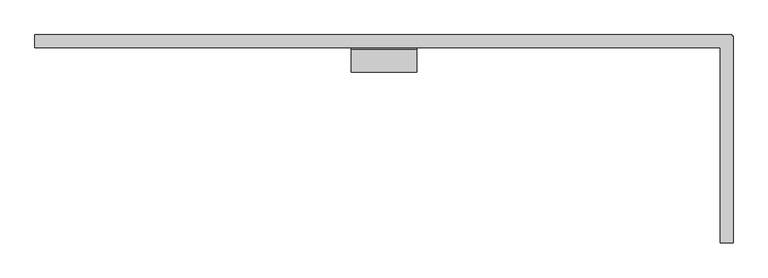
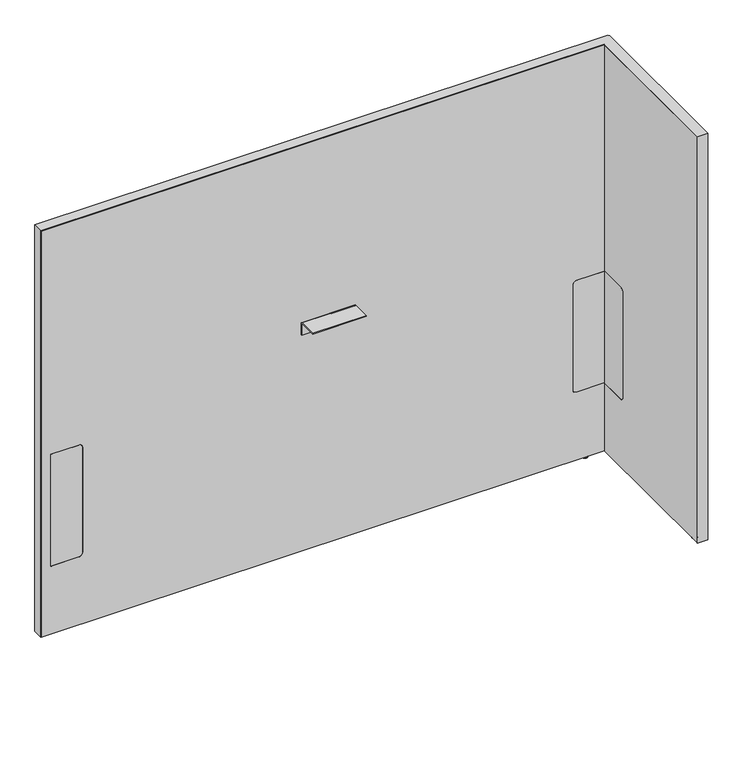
"""IFC4 building model written with IfcOpenShell, lengths in millimetres: furniture geometry, Steelcase - Answer Solution - Boundary Screen - L Return - Single Sided : 48H x 63W."""

from ifc_helpers import new_model, si_unit, point, frame, frame_2d, origin, place, context, project, spatial, polyline, circle_curve, ellipse_curve, trimmed, segment, composite_curve, outline, extrude, faceted_brep, source, transform, mapped, element, save
from ifc_brep_helpers import plane_surface, cylinder_surface, revolved_surface, advanced_brep


def furniture_eaf8db1d(model_context):
    return source(origin(), model_context, "Body", "SolidModel", [
        extrude(outline(composite_curve([segment(polyline([(-109.3501471, 549.6162029), (-29.0550397, 549.6162029), (-29.0550397, 213.7762137), (-109.3501471, 213.7762137)]), True, "CONTINUOUS"), segment(trimmed(circle_curve(frame_2d((-109.3501471, 223.9362137)), 10.16), [point((-109.3501471, 213.7762137))], [point((-119.5101471, 223.9362137))], False, "CARTESIAN"), True, "CONTINUOUS"), segment(polyline([(-119.5101471, 223.9362137), (-119.5101471, 539.4562029)]), True, "CONTINUOUS"), segment(trimmed(circle_curve(frame_2d((-109.3501471, 539.4562029)), 10.16), [point((-119.5101471, 539.4562029))], [point((-109.3501471, 549.6162029))], False, "CARTESIAN"), True, "CONTINUOUS")], self_intersect=False)), frame((1830.0191891, 0.0, 0.0), z_axis=(1.0, 0.0, 0.0), x_axis=(0.0, 1.0, 0.0)), (0.0, 0.0, 1.0), 0.6401544),
        advanced_brep(
        [(1844.8672074, -448.0136072, 0.0), (1851.8216144, -448.0136072, 0.0), (1837.9128003, -448.0136072, 0.0), (1853.2762685, -448.0136072, 1.2700001), (1836.4581463, -448.0136072, 1.2700001), (1853.2762685, -448.0136072, 2.9673238), (1836.4581463, -448.0136072, 2.9673238), (1854.2427877, -448.0136072, 2.9673238), (1835.491627, -448.0136072, 2.9673238), (1854.2427877, -448.0136072, 9.9059849), (1835.491627, -448.0136072, 9.9059849), (1844.8672074, -448.0136072, 9.9059849)],
        [
            (0, 1),
            (1, 2, circle_curve(frame((1844.8672074, -448.0136072, 0.0), z_axis=(0.0, 0.0, -1.0), x_axis=(1.0, 0.0, 0.0)), 6.9544071)),
            (2, 0),
            (2, 1, circle_curve(frame((1844.8672074, -448.0136072, 0.0), z_axis=(0.0, 0.0, -1.0), x_axis=(1.0, 0.0, 0.0)), 6.9544071)),
            (1, 3, circle_curve(frame((1851.9945484, -448.0136072, 1.2700001), z_axis=(0.0, -1.0, 0.0), x_axis=(0.0, 0.0, 1.0)), 1.2817201)),
            (3, 4, circle_curve(frame((1844.8672074, -448.0136072, 1.2700001), z_axis=(0.0, 0.0, -1.0), x_axis=(1.0, 0.0, 0.0)), 8.4090611)),
            (4, 2, circle_curve(frame((1837.7398663, -448.0136072, 1.2700001), z_axis=(0.0, -1.0, 0.0), x_axis=(0.0, 0.0, 1.0)), 1.2817201)),
            (4, 3, circle_curve(frame((1844.8672074, -448.0136072, 1.2700001), z_axis=(0.0, 0.0, -1.0), x_axis=(1.0, 0.0, 0.0)), 8.4090611)),
            (3, 5),
            (5, 6, circle_curve(frame((1844.8672074, -448.0136072, 2.9673238), z_axis=(0.0, 0.0, -1.0), x_axis=(1.0, 0.0, 0.0)), 8.4090611)),
            (6, 4),
            (6, 5, circle_curve(frame((1844.8672074, -448.0136072, 2.9673238), z_axis=(0.0, 0.0, -1.0), x_axis=(1.0, 0.0, 0.0)), 8.4090611)),
            (5, 7),
            (7, 8, circle_curve(frame((1844.8672074, -448.0136072, 2.9673238), z_axis=(0.0, 0.0, -1.0), x_axis=(1.0, 0.0, 0.0)), 9.3755804)),
            (8, 6),
            (8, 7, circle_curve(frame((1844.8672074, -448.0136072, 2.9673238), z_axis=(0.0, 0.0, -1.0), x_axis=(1.0, 0.0, 0.0)), 9.3755804)),
            (7, 9),
            (9, 10, circle_curve(frame((1844.8672074, -448.0136072, 9.9059849), z_axis=(0.0, 0.0, -1.0), x_axis=(1.0, 0.0, 0.0)), 9.3755804)),
            (10, 8),
            (10, 9, circle_curve(frame((1844.8672074, -448.0136072, 9.9059849), z_axis=(0.0, 0.0, -1.0), x_axis=(1.0, 0.0, 0.0)), 9.3755804)),
            (9, 11),
            (11, 10),
        ],
        [
            plane_surface(frame((1844.8672074, -448.0136072, 0.0), z_axis=(0.0, 0.0, -1.0), x_axis=(1.0, 0.0, 0.0))),
            revolved_surface(trimmed(ellipse_curve(frame((1851.9945484, -448.0136072, 1.2700001), z_axis=(0.0, 1.0, 0.0), x_axis=(0.0, 0.0, 1.0)), 1.2817201, 1.2817201), [point((1853.2762685, -448.0136072, 1.2700001))], [point((1851.8216144, -448.0136072, 0.0))], True, "CARTESIAN"), (1844.8672074, -448.0136072, 9.9059849), (0.0, 0.0, -1.0)),
            cylinder_surface(frame((1844.8672074, -448.0136072, 9.9059849), z_axis=(0.0, 0.0, -1.0), x_axis=(1.0, 0.0, 0.0)), 8.4090611),
            plane_surface(frame((1844.8672074, -448.0136072, 2.9673238), z_axis=(0.0, 0.0, -1.0), x_axis=(1.0, 0.0, 0.0))),
            cylinder_surface(frame((1844.8672074, -448.0136072, 9.9059849), z_axis=(0.0, 0.0, -1.0), x_axis=(1.0, 0.0, 0.0)), 9.3755804),
            plane_surface(frame((1844.8672074, -448.0136072, 9.9059849), z_axis=(0.0, 0.0, 1.0), x_axis=(1.0, 0.0, 0.0))),
        ],
        [
            (0, [[1, 2, 3]]),
            (0, [[-3, 4, -1]]),
            (1, [[-2, 5, 6, 7]]),
            (1, [[-4, -7, 8, -5]]),
            (2, [[-6, 9, 10, 11]]),
            (2, [[-8, -11, 12, -9]]),
            (3, [[-10, 13, 14, 15]]),
            (3, [[-12, -15, 16, -13]]),
            (4, [[-14, 17, 18, 19]]),
            (4, [[-16, -19, 20, -17]]),
            (5, [[-18, 21, 22]]),
            (5, [[-20, -22, -21]]),
        ],
    ),
        faceted_brep([(1856.4531179, 0.0, 1230.122), (1856.4531179, 0.0, 9.9059849), (1855.4621491, 0.0, 9.9059849), (1855.4621491, 0.0, 1229.142118), (230.8097779, 0.0, 1229.142118), (230.8097779, 0.0, 9.9059849), (229.8191891, 0.0, 9.9059849), (229.8191891, 0.0, 1230.122), (229.8191891, -29.6898332, 1230.122), (229.8191891, -29.6898332, 9.9059849), (230.8097779, -29.6898332, 9.9059849), (230.8097779, -29.6898332, 1229.142118), (1830.0191891, -29.6898332, 1229.142118), (1830.0191891, -29.6898332, 1230.122), (1855.4621491, -29.6898332, 1229.142118), (1855.4621491, -29.6898332, 9.9059849), (1856.4531179, -29.6898332, 9.9059849), (1856.4531179, -29.6898332, 1229.142118), (1856.4531179, -3.2625916, 1230.122), (1856.4531179, -3.2625916, 9.9059849), (1856.4531179, -4.252647, 9.9059849), (1856.4531179, -4.252647, 1229.142118), (1859.7152256, -3.2625916, 9.9059849), (1859.7152256, -4.252647, 9.9059849), (1855.4621491, -4.252647, 9.9059849), (1830.0191891, -4.252647, 9.9059849), (1830.0191891, -3.2625916, 9.9059849), (1855.4621491, -3.2625916, 9.9059849), (1830.0191891, -486.8898332, 1230.122), (1859.7152256, -486.8898332, 1230.122), (1859.7152256, -3.2625916, 1230.122), (1855.4621491, -3.2625916, 1229.142118), (1855.4621491, -4.252647, 1229.142118), (1830.0191891, -3.2625916, 1229.142118), (1830.0191891, -4.252647, 1229.142118), (1859.7152256, -4.252647, 1229.142118), (1859.7152256, -485.899196, 1229.142118), (1830.0191891, -485.899196, 1229.142118), (1830.0191891, -485.899196, 9.9059849), (1830.0191891, -486.8898332, 9.9059849), (1859.7152256, -486.8898332, 9.9059849), (1859.7152256, -485.899196, 9.9059849)], [[[0, 1, 2, 3, 4, 5, 6, 7]], [[8, 9, 10, 11, 12, 13]], [[14, 15, 16, 17]], [[1, 0, 18, 19]], [[17, 16, 20, 21]], [[2, 1, 19, 22, 23, 20, 16, 15, 24, 25, 26, 27]], [[7, 6, 9, 8]], [[0, 7, 8, 13, 28, 29, 30, 18]], [[3, 2, 27, 31]], [[15, 14, 32, 24]], [[4, 3, 31, 33, 34, 32, 14, 17, 21, 35, 36, 37, 12, 11]], [[5, 4, 11, 10]], [[6, 5, 10, 9]], [[26, 25, 34, 33]], [[37, 38, 39, 28, 13, 12]], [[29, 40, 41, 36, 35, 23, 22, 30]], [[27, 26, 33, 31]], [[30, 22, 19, 18]], [[34, 25, 24, 32]], [[23, 35, 21, 20]], [[38, 37, 36, 41]], [[39, 38, 41, 40]], [[28, 39, 40, 29]]]),
        extrude(outline(composite_curve([segment(polyline([(-86.8398151, 696.4680019), (-86.8398151, 698.5), (-34.9450855, 698.5)]), True, "CONTINUOUS"), segment(trimmed(circle_curve(frame_2d((-34.9450855, 693.2447477)), 5.2552523), [point((-34.9450855, 698.5))], [point((-29.6898332, 693.2447477))], False, "CARTESIAN"), True, "CONTINUOUS"), segment(polyline([(-29.6898332, 693.2447477), (-29.6898332, 660.4), (-31.7218162, 660.4), (-31.7218162, 693.0058743)]), True, "CONTINUOUS"), segment(trimmed(circle_curve(frame_2d((-35.1839438, 693.0058743)), 3.4621276), [point((-31.7218162, 693.0058743))], [point((-35.1839438, 696.4680019))], True, "CARTESIAN"), True, "CONTINUOUS"), segment(polyline([(-35.1839438, 696.4680019), (-86.8398151, 696.4680019)]), True, "CONTINUOUS")], self_intersect=False)), frame((968.5685899, 0.0, 0.0), z_axis=(1.0, 0.0, 0.0), x_axis=(0.0, 1.0, 0.0)), (0.0, 0.0, 1.0), 152.4000969),
        advanced_brep(
        [(1782.5246853, -23.7588726, 9.9059849), (1782.5246853, -5.9309607, 9.9059849), (1782.5246853, -14.8449166, 9.9059849), (1782.5246853, -23.7588726, 2.9673238), (1782.5246853, -5.9309607, 2.9673238), (1782.5246853, -22.7915354, 2.9673238), (1782.5246853, -6.8982978, 2.9673238), (1782.5246853, -22.7915354, 1.6569081), (1782.5246853, -6.8982978, 1.6569081), (1782.5246853, -21.1346274, 0.0), (1782.5246853, -8.5552059, 0.0), (1782.5246853, -14.8449166, 0.0)],
        [
            (0, 1, circle_curve(frame((1782.5246853, -14.8449166, 9.9059849), z_axis=(0.0, 0.0, 1.0), x_axis=(0.0, 1.0, 0.0)), 8.913956)),
            (1, 2),
            (2, 0),
            (1, 0, circle_curve(frame((1782.5246853, -14.8449166, 9.9059849), z_axis=(0.0, 0.0, 1.0), x_axis=(0.0, 1.0, 0.0)), 8.913956)),
            (3, 4, circle_curve(frame((1782.5246853, -14.8449166, 2.9673238), z_axis=(0.0, 0.0, 1.0), x_axis=(0.0, 1.0, 0.0)), 8.913956)),
            (4, 1),
            (0, 3),
            (4, 3, circle_curve(frame((1782.5246853, -14.8449166, 2.9673238), z_axis=(0.0, 0.0, 1.0), x_axis=(0.0, 1.0, 0.0)), 8.913956)),
            (5, 6, circle_curve(frame((1782.5246853, -14.8449166, 2.9673238), z_axis=(0.0, 0.0, 1.0), x_axis=(0.0, 1.0, 0.0)), 7.9466188)),
            (6, 4),
            (3, 5),
            (6, 5, circle_curve(frame((1782.5246853, -14.8449166, 2.9673238), z_axis=(0.0, 0.0, 1.0), x_axis=(0.0, 1.0, 0.0)), 7.9466188)),
            (7, 8, circle_curve(frame((1782.5246853, -14.8449166, 1.6569081), z_axis=(0.0, 0.0, 1.0), x_axis=(0.0, 1.0, 0.0)), 7.9466188)),
            (8, 6),
            (5, 7),
            (8, 7, circle_curve(frame((1782.5246853, -14.8449166, 1.6569081), z_axis=(0.0, 0.0, 1.0), x_axis=(0.0, 1.0, 0.0)), 7.9466188)),
            (9, 10, circle_curve(frame((1782.5246853, -14.8449166, 0.0), z_axis=(0.0, 0.0, 1.0), x_axis=(0.0, 1.0, 0.0)), 6.2897107)),
            (10, 8, circle_curve(frame((1782.5246853, -8.5552059, 1.6569081), z_axis=(1.0, 0.0, 0.0), x_axis=(0.0, 1.0, 0.0)), 1.6569081)),
            (7, 9, circle_curve(frame((1782.5246853, -21.1346274, 1.6569081), z_axis=(1.0, 0.0, 0.0), x_axis=(0.0, -1.0, 0.0)), 1.6569081)),
            (10, 9, circle_curve(frame((1782.5246853, -14.8449166, 0.0), z_axis=(0.0, 0.0, 1.0), x_axis=(0.0, 1.0, 0.0)), 6.2897107)),
            (11, 10),
            (9, 11),
        ],
        [
            plane_surface(frame((1782.5246853, -14.8449166, 9.9059849), z_axis=(0.0, 0.0, 1.0), x_axis=(0.0, 1.0, 0.0))),
            cylinder_surface(frame((1782.5246853, -14.8449166, 9.9059849), z_axis=(0.0, 0.0, -1.0), x_axis=(0.0, 1.0, 0.0)), 8.913956),
            plane_surface(frame((1782.5246853, -14.8449166, 2.9673238), z_axis=(0.0, 0.0, -1.0), x_axis=(0.0, 1.0, 0.0))),
            cylinder_surface(frame((1782.5246853, -14.8449166, 9.9059849), z_axis=(0.0, 0.0, -1.0), x_axis=(0.0, 1.0, 0.0)), 7.9466188),
            revolved_surface(trimmed(ellipse_curve(frame((1782.5246853, -8.5552059, 1.6569081), z_axis=(-1.0, 0.0, 0.0), x_axis=(0.0, 1.0, 0.0)), 1.6569081, 1.6569081), [point((1782.5246853, -6.8982978, 1.6569081))], [point((1782.5246853, -8.5552059, 0.0))], True, "CARTESIAN"), (1782.5246853, -14.8449166, 9.9059849), (0.0, 0.0, -1.0)),
            plane_surface(frame((1782.5246853, -14.8449166, 0.0), z_axis=(0.0, 0.0, -1.0), x_axis=(0.0, 1.0, 0.0))),
        ],
        [
            (0, [[1, 2, 3]]),
            (0, [[4, -3, -2]]),
            (1, [[5, 6, -1, 7]]),
            (1, [[8, -7, -4, -6]]),
            (2, [[9, 10, -5, 11]]),
            (2, [[12, -11, -8, -10]]),
            (3, [[13, 14, -9, 15]]),
            (3, [[16, -15, -12, -14]]),
            (4, [[17, 18, -13, 19]]),
            (4, [[20, -19, -16, -18]]),
            (5, [[21, -17, 22]]),
            (5, [[-22, -20, -21]]),
        ],
    ),
        advanced_brep(
        [(230.8097779, 0.0, 1229.142118), (1855.4621491, 0.0, 1229.142118), (1855.4621491, 0.0, 9.9059849), (230.8097779, 0.0, 9.9059849), (347.9483813, -29.0550397, 539.4562029), (337.7883813, -29.0550397, 549.6162029), (258.1344836, -29.0550397, 549.6162029), (258.1344836, -29.0550397, 213.7762137), (337.7883813, -29.0550397, 213.7762137), (347.9483813, -29.0550397, 223.9362137), (1830.6593435, -29.0550397, 213.7762137), (1830.6593435, -29.0550397, 549.6162029), (1750.1109268, -29.0550397, 549.6162029), (1739.9509268, -29.0550397, 539.4562029), (1739.9509268, -29.0550397, 223.9362137), (1750.1109268, -29.0550397, 213.7762137), (230.8097779, -29.6898332, 1229.142118), (230.8097779, -29.6898332, 9.9059849), (1830.0191891, -29.6898332, 9.9059849), (1830.0191891, -29.6898332, 213.7762137), (1750.1109268, -29.6898332, 213.7762137), (1739.9509268, -29.6898332, 223.9362137), (1739.9509268, -29.6898332, 539.4562029), (1750.1109268, -29.6898332, 549.6162029), (1830.0191891, -29.6898332, 549.6162029), (1830.0191891, -29.6898332, 1229.142118), (337.7883813, -29.6898332, 549.6162029), (347.9483813, -29.6898332, 539.4562029), (347.9483813, -29.6898332, 223.9362137), (337.7883813, -29.6898332, 213.7762137), (258.1344836, -29.6898332, 213.7762137), (258.1344836, -29.6898332, 549.6162029), (1855.4621491, -4.252647, 9.9059849), (1859.7152256, -4.252647, 9.9059849), (1859.7152256, -485.899196, 9.9059849), (1830.0191891, -485.899196, 9.9059849), (1855.4621491, -4.252647, 1229.142118), (1830.0191891, -485.899196, 1229.142118), (1859.7152256, -485.899196, 1229.142118), (1859.7152256, -4.252647, 1229.142118), (1830.6593435, -109.3501471, 549.6162029), (1830.0191891, -109.3501471, 549.6162029), (1830.6593435, -109.3501471, 213.7762137), (1830.6593435, -119.5101471, 223.9362137), (1830.6593435, -119.5101471, 539.4562029), (1830.0191891, -109.3501471, 213.7762137), (1830.0191891, -119.5101471, 539.4562029), (1830.0191891, -119.5101471, 223.9362137)],
        [
            (0, 1),
            (1, 2),
            (2, 3),
            (3, 0),
            (4, 5, circle_curve(frame((337.7883813, -29.0550397, 539.4562029), z_axis=(0.0, -1.0, 0.0), x_axis=(0.0, 0.0, 1.0)), 10.16)),
            (5, 6),
            (6, 7),
            (7, 8),
            (8, 9, circle_curve(frame((337.7883813, -29.0550397, 223.9362137), z_axis=(0.0, -1.0, 0.0), x_axis=(0.0, 0.0, 1.0)), 10.16)),
            (9, 4),
            (10, 11),
            (11, 12),
            (12, 13, circle_curve(frame((1750.1109268, -29.0550397, 539.4562029), z_axis=(0.0, -1.0, 0.0), x_axis=(0.0, 0.0, 1.0)), 10.16)),
            (13, 14),
            (14, 15, circle_curve(frame((1750.1109268, -29.0550397, 223.9362137), z_axis=(0.0, -1.0, 0.0), x_axis=(0.0, 0.0, 1.0)), 10.16)),
            (15, 10),
            (16, 17),
            (17, 18),
            (18, 19),
            (19, 20),
            (20, 21, circle_curve(frame((1750.1109268, -29.6898332, 223.9362137), z_axis=(0.0, 1.0, 0.0), x_axis=(0.0, 0.0, 1.0)), 10.16)),
            (21, 22),
            (22, 23, circle_curve(frame((1750.1109268, -29.6898332, 539.4562029), z_axis=(0.0, 1.0, 0.0), x_axis=(0.0, 0.0, 1.0)), 10.16)),
            (23, 24),
            (24, 25),
            (25, 16),
            (26, 27, circle_curve(frame((337.7883813, -29.6898332, 539.4562029), z_axis=(0.0, 1.0, 0.0), x_axis=(0.0, 0.0, 1.0)), 10.16)),
            (27, 28),
            (28, 29, circle_curve(frame((337.7883813, -29.6898332, 223.9362137), z_axis=(0.0, 1.0, 0.0), x_axis=(0.0, 0.0, 1.0)), 10.16)),
            (29, 30),
            (30, 31),
            (31, 26),
            (16, 0),
            (3, 17),
            (2, 32),
            (32, 33),
            (33, 34),
            (34, 35),
            (35, 18),
            (1, 36),
            (36, 32),
            (25, 37),
            (37, 38),
            (38, 39),
            (39, 36),
            (26, 5),
            (4, 27),
            (9, 28),
            (8, 29),
            (7, 30),
            (6, 31),
            (11, 40),
            (40, 41),
            (41, 24),
            (23, 12),
            (42, 43, circle_curve(frame((1830.6593435, -109.3501471, 223.9362137), z_axis=(-1.0, 0.0, 0.0), x_axis=(0.0, 1.0, 0.0)), 10.16)),
            (43, 44),
            (44, 40, circle_curve(frame((1830.6593435, -109.3501471, 539.4562029), z_axis=(-1.0, 0.0, 0.0), x_axis=(0.0, 1.0, 0.0)), 10.16)),
            (10, 42),
            (15, 20),
            (19, 45),
            (45, 42),
            (14, 21),
            (13, 22),
            (35, 37),
            (41, 46, circle_curve(frame((1830.0191891, -109.3501471, 539.4562029), z_axis=(1.0, 0.0, 0.0), x_axis=(0.0, 1.0, 0.0)), 10.16)),
            (46, 47),
            (47, 45, circle_curve(frame((1830.0191891, -109.3501471, 223.9362137), z_axis=(1.0, 0.0, 0.0), x_axis=(0.0, 1.0, 0.0)), 10.16)),
            (38, 34),
            (33, 39),
            (44, 46),
            (43, 47),
        ],
        [
            plane_surface(frame((347.9483813, 0.0, 549.6162029), z_axis=(0.0, 1.0, 0.0), x_axis=(0.0, 0.0, -1.0))),
            plane_surface(frame((347.9483813, -29.0550397, 549.6162029), z_axis=(0.0, -1.0, 0.0), x_axis=(0.0, 0.0, 1.0))),
            plane_surface(frame((1855.4621491, -29.6898332, 1229.142118), z_axis=(0.0, -1.0, 0.0), x_axis=(-1.0, 0.0, 0.0))),
            plane_surface(frame((230.8097779, 0.0, 9.9059849), z_axis=(-1.0, 0.0, 0.0), x_axis=(0.0, -1.0, 0.0))),
            plane_surface(frame((1855.4621491, 0.0, 9.9059849), z_axis=(0.0, 0.0, -1.0), x_axis=(0.0, -1.0, 0.0))),
            plane_surface(frame((1855.4621491, 0.0, 1229.142118), z_axis=(1.0, 0.0, 0.0), x_axis=(0.0, -1.0, 0.0))),
            plane_surface(frame((230.8097779, 0.0, 1229.142118), z_axis=(0.0, 0.0, 1.0), x_axis=(0.0, -1.0, 0.0))),
            revolved_surface(polyline([(337.7883813, -29.6898332, 549.6162029), (337.7883813, -29.0550397, 549.6162029)]), (337.7883813, -29.6898332, 539.4562029), (0.0, -1.0, 0.0)),
            plane_surface(frame((347.9483813, 0.0, 223.9362137), z_axis=(-1.0, 0.0, 0.0), x_axis=(0.0, -1.0, 0.0))),
            revolved_surface(polyline([(337.7883813, -29.6898332, 234.0962137), (337.7883813, -29.0550397, 234.0962137)]), (337.7883813, -29.6898332, 223.9362137), (0.0, -1.0, 0.0)),
            plane_surface(frame((258.1344836, 0.0, 213.7762137), z_axis=(0.0, 0.0, 1.0), x_axis=(0.0, -1.0, 0.0))),
            plane_surface(frame((258.1344836, 0.0, 549.6162029), z_axis=(1.0, 0.0, 0.0), x_axis=(0.0, -1.0, 0.0))),
            plane_surface(frame((337.7883813, 0.0, 549.6162029), z_axis=(0.0, 0.0, -1.0), x_axis=(0.0, -1.0, 0.0))),
            plane_surface(frame((1830.6593435, 0.0, 549.6162029), z_axis=(0.0, 0.0, -1.0), x_axis=(0.0, -1.0, 0.0))),
            plane_surface(frame((1830.6593435, 0.0, 213.7762137), z_axis=(-1.0, 0.0, 0.0), x_axis=(0.0, -1.0, 0.0))),
            plane_surface(frame((1750.1109268, 0.0, 213.7762137), z_axis=(0.0, 0.0, 1.0), x_axis=(0.0, -1.0, 0.0))),
            revolved_surface(polyline([(1750.1109268, -29.6898332, 234.0962137), (1750.1109268, -29.0550397, 234.0962137)]), (1750.1109268, -29.6898332, 223.9362137), (0.0, -1.0, 0.0)),
            plane_surface(frame((1739.9509268, 0.0, 539.4562029), z_axis=(1.0, 0.0, 0.0), x_axis=(0.0, -1.0, 0.0))),
            revolved_surface(polyline([(1750.1109268, -29.6898332, 549.6162029), (1750.1109268, -29.0550397, 549.6162029)]), (1750.1109268, -29.6898332, 539.4562029), (0.0, -1.0, 0.0)),
            plane_surface(frame((1830.0191891, -485.899196, 1229.142118), z_axis=(-1.0, 0.0, 0.0), x_axis=(0.0, 0.0, 1.0))),
            plane_surface(frame((1859.7152256, -485.899196, 1229.142118), z_axis=(1.0, 0.0, 0.0), x_axis=(0.0, 0.0, -1.0))),
            plane_surface(frame((1859.7152256, -4.252647, 9.9059849), z_axis=(0.0, 1.0, 0.0), x_axis=(-1.0, 0.0, 0.0))),
            plane_surface(frame((1859.7152256, -485.899196, 1229.142118), z_axis=(0.0, -1.0, 0.0), x_axis=(-1.0, 0.0, 0.0))),
            revolved_surface(polyline([(1830.0191890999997, -99.1901471, 539.4562029), (1830.6593434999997, -99.1901471, 539.4562029)]), (-340.6902705, -109.3501471, 539.4562029), (-1.0, 0.0, 0.0)),
            plane_surface(frame((1859.7152256, -119.5101471, 223.9362137), z_axis=(0.0, 1.0, 0.0), x_axis=(-1.0, 0.0, 0.0))),
            revolved_surface(polyline([(1830.0191890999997, -99.1901471, 223.9362137), (1830.6593434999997, -99.1901471, 223.9362137)]), (-340.6902705, -109.3501471, 223.9362137), (-1.0, 0.0, 0.0)),
        ],
        [
            (0, [[1, 2, 3, 4]]),
            (1, [[5, 6, 7, 8, 9, 10]]),
            (1, [[11, 12, 13, 14, 15, 16]]),
            (2, [[17, 18, 19, 20, 21, 22, 23, 24, 25, 26], [27, 28, 29, 30, 31, 32]]),
            (3, [[-17, 33, -4, 34]]),
            (4, [[-3, 35, 36, 37, 38, 39, -18, -34]]),
            (5, [[-2, 40, 41, -35]]),
            (6, [[-1, -33, -26, 42, 43, 44, 45, -40]]),
            (7, [[-27, 46, -5, 47]]),
            (8, [[-28, -47, -10, 48]]),
            (9, [[-29, -48, -9, 49]]),
            (10, [[-30, -49, -8, 50]]),
            (11, [[-31, -50, -7, 51]]),
            (12, [[-32, -51, -6, -46]]),
            (13, [[52, 53, 54, -24, 55, -12]]),
            (14, [[56, 57, 58, -52, -11, 59]]),
            (15, [[-59, -16, 60, -20, 61, 62]]),
            (16, [[-21, -60, -15, 63]]),
            (17, [[-22, -63, -14, 64]]),
            (18, [[-23, -64, -13, -55]]),
            (19, [[65, -42, -25, -54, 66, 67, 68, -61, -19, -39]]),
            (20, [[69, -37, 70, -44]]),
            (21, [[-70, -36, -41, -45]]),
            (22, [[-65, -38, -69, -43]]),
            (23, [[-66, -53, -58, 71]]),
            (24, [[-67, -71, -57, 72]]),
            (25, [[-68, -72, -56, -62]]),
        ],
    ),
        extrude(outline(composite_curve([segment(polyline([(549.6162029, 337.7883813), (549.6162029, 258.1344836), (213.7762137, 258.1344836), (213.7762137, 337.7883813)]), True, "CONTINUOUS"), segment(trimmed(circle_curve(frame_2d((223.9362137, 337.7883813)), 10.16), [point((213.7762137, 337.7883813))], [point((223.9362137, 347.9483813))], False, "CARTESIAN"), True, "CONTINUOUS"), segment(polyline([(223.9362137, 347.9483813), (539.4562029, 347.9483813)]), True, "CONTINUOUS"), segment(trimmed(circle_curve(frame_2d((539.4562029, 337.7883813)), 10.16), [point((539.4562029, 347.9483813))], [point((549.6162029, 337.7883813))], False, "CARTESIAN"), True, "CONTINUOUS")], self_intersect=False)), frame((0.0, -29.6898332, 0.0), z_axis=(0.0, 1.0, 0.0), x_axis=(0.0, 0.0, 1.0)), (0.0, 0.0, 1.0), 0.6347935),
        extrude(outline(composite_curve([segment(trimmed(circle_curve(frame_2d((539.4562029, 1750.1109268)), 10.16), [point((549.6162029, 1750.1109268))], [point((539.4562029, 1739.9509268))], False, "CARTESIAN"), True, "CONTINUOUS"), segment(polyline([(539.4562029, 1739.9509268), (223.9362137, 1739.9509268)]), True, "CONTINUOUS"), segment(trimmed(circle_curve(frame_2d((223.9362137, 1750.1109268)), 10.16), [point((223.9362137, 1739.9509268))], [point((213.7762137, 1750.1109268))], False, "CARTESIAN"), True, "CONTINUOUS"), segment(polyline([(213.7762137, 1750.1109268), (213.7762137, 1830.0191891), (549.6162029, 1830.0191891), (549.6162029, 1750.1109268)]), True, "CONTINUOUS")], self_intersect=False)), frame((0.0, -29.6898332, 0.0), z_axis=(0.0, 1.0, 0.0), x_axis=(0.0, 0.0, 1.0)), (0.0, 0.0, 1.0), 0.6347935),
    ])


if __name__ == "__main__":
    model = new_model("IFC4")
    model_context = context("Model", 3, world=origin())
    ifc_project = project(units=[si_unit("LENGTHUNIT", "METRE", prefix="MILLI")], contexts=[model_context])
    site = spatial("IfcSite", under=ifc_project)
    building = spatial("IfcBuilding", under=site)
    placement = place(None, origin())
    furniture_shape = furniture_eaf8db1d(model_context)
    element("IfcFurniture", 1, ObjectType="Steelcase - Answer Solution - Boundary Screen - L Return - Single Sided : 48H x 63W", at=placement, inside=building, context=model_context, shape_type="MappedRepresentation", body=[
        mapped(furniture_shape, transform((0.0, 0.0, 0.0), x_axis=(1.0, 0.0, 0.0), y_axis=(0.0, 1.0, 0.0), z_axis=(0.0, 0.0, 1.0))),
    ])
    save(model, "model.ifc")
